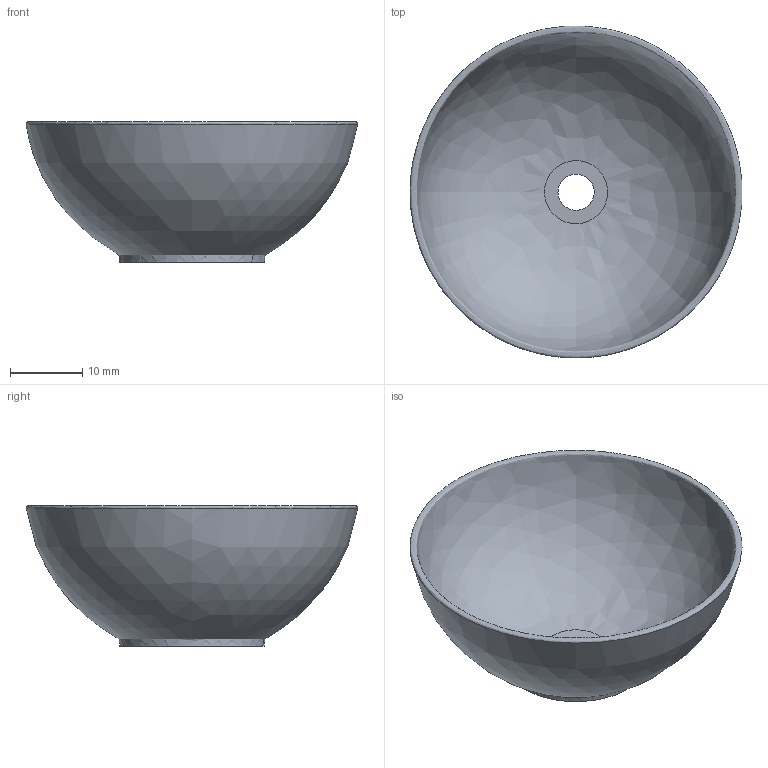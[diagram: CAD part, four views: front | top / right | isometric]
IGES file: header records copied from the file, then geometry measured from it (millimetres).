
Global section: file name: C:\Users\MARTA\Desktop\lavabi_flavia\flavia_46.igs; native system: Rhinoceros ( Feb 26 2009 ); preprocessor: Trout Lake IGES 012 Feb 26 2009; date: 110704.203707; units: millimetre
Bounding box: 45.89 x 45.87 x 19.4 mm (x, y, z)
Surface area: 5818.9 mm2 (no closed solid volume)
Topology: 0 solids, 0 shells, 6 faces, 18 edges, 12 vertices
Faces by surface type: bspline 6
